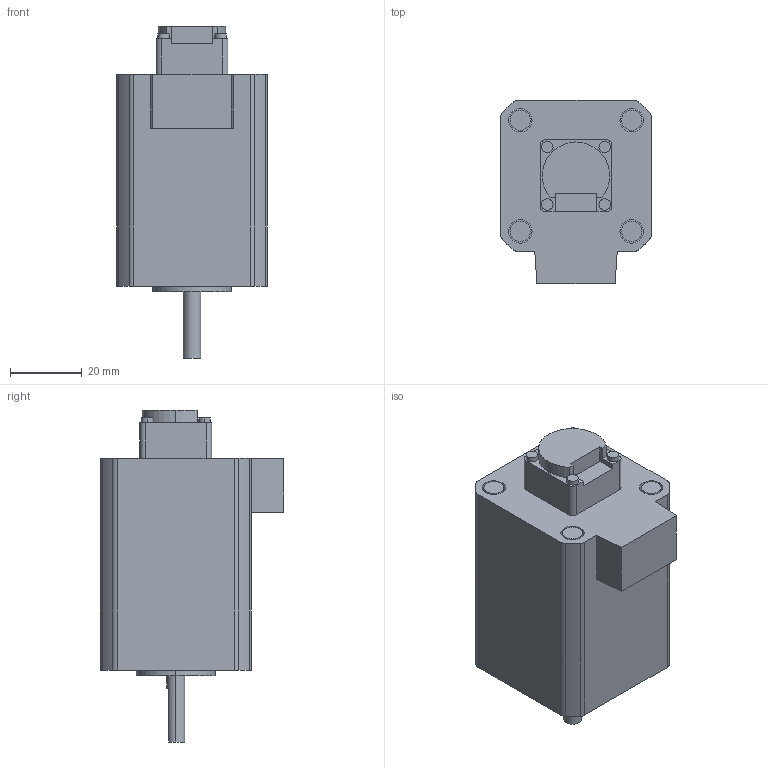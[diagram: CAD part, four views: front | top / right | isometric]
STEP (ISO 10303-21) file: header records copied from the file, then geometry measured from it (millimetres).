
FILE_DESCRIPTION (( 'STEP AP203' ), '1' );
FILE_NAME ('B1581.STEP', '2023-08-31T04:08:08', ( '' ), ( '' ), 'SwSTEP 2.0', 'SolidWorks 2020', '' );
FILE_SCHEMA (( 'CONFIG_CONTROL_DESIGN' ));
Length unit declared in the file: millimetre
Products named in the file (1): B1581
Bounding box: 42 x 51 x 92.5 mm (x, y, z)
Volume: 109081.1 mm3; surface area: 16378.8 mm2
Topology: 1 solids, 1 shells, 124 faces, 292 edges, 188 vertices
Faces by surface type: cylinder 67, plane 49, cone 8
Entity records: 3629 total; most frequent: DIRECTION 670, CARTESIAN_POINT 597, ORIENTED_EDGE 568, EDGE_CURVE 284, AXIS2_PLACEMENT_3D 261, VERTEX_POINT 188, EDGE_LOOP 150, LINE 148
